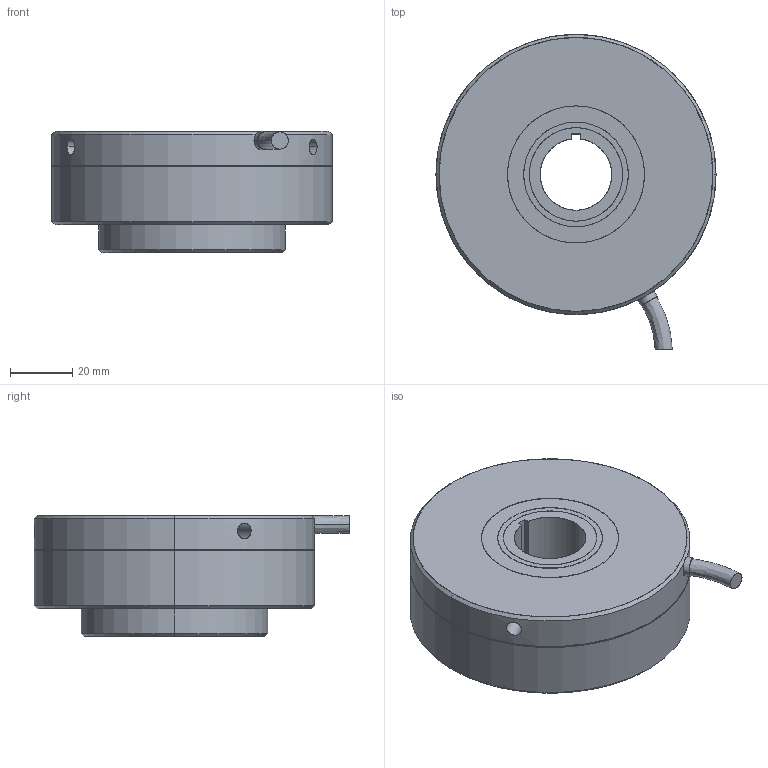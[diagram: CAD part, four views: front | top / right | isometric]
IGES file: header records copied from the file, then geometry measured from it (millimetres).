
Start section: SolidWorks IGES file using analytic representation for surfaces
Bounding box: 90 x 101.28 x 39.07 mm (x, y, z)
Surface area: 32974.9 mm2 (no closed solid volume)
Topology: 0 solids, 0 shells, 59 faces, 1880 edges, 1880 vertices
Faces by surface type: revolution 37, bspline 22
